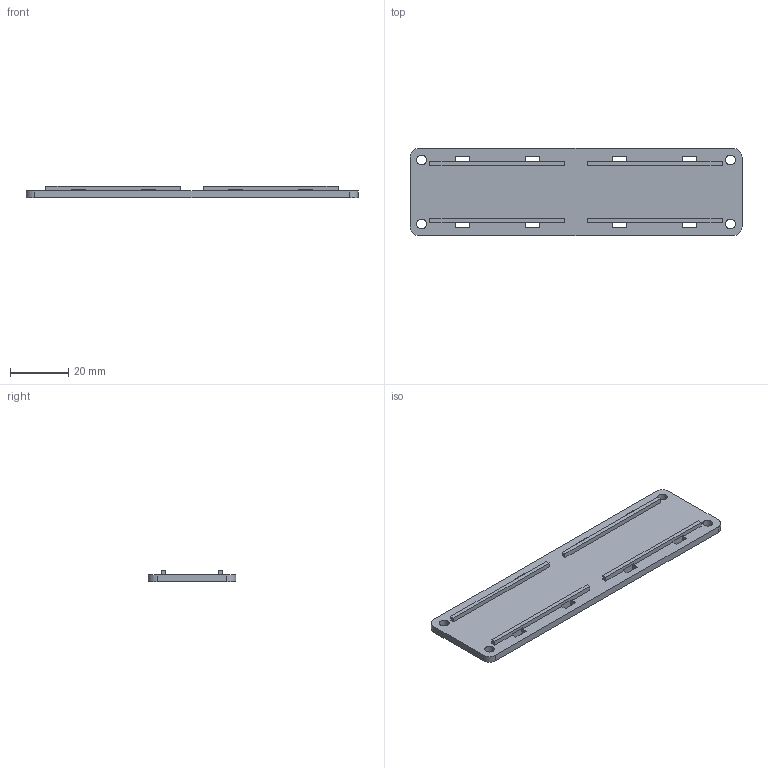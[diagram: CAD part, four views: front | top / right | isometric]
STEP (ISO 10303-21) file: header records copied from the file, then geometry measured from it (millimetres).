
FILE_DESCRIPTION(('Open CASCADE Model'),'2;1');
FILE_NAME('Open CASCADE Shape Model','2026-07-23T15:55:57',('Author'),( 'Open CASCADE'),'Open CASCADE STEP processor 7.9','Open CASCADE 7.9' ,'Unknown');
FILE_SCHEMA(('AUTOMOTIVE_DESIGN { 1 0 10303 214 1 1 1 1 }'));
Length unit declared in the file: millimetre
Products named in the file (1): Open CASCADE STEP translator 7.9 3
Bounding box: 114 x 30 x 4 mm (x, y, z)
Volume: 8276.4 mm3; surface area: 8410.2 mm2
Topology: 1 solids, 20 shells, 421 faces, 1155 edges, 770 vertices
Faces by surface type: plane 264, extrusion 149, cylinder 8
Full cylindrical faces by diameter (mm): 3.4 x4
Entity records: 28334 total; most frequent: CARTESIAN_POINT 6379, DIRECTION 3408, VECTOR 2826, LINE 2677, ORIENTED_EDGE 2310, PCURVE 2310, DEFINITIONAL_REPRESENTATION 2310, EDGE_CURVE 1155
